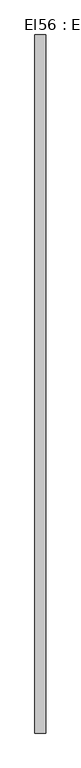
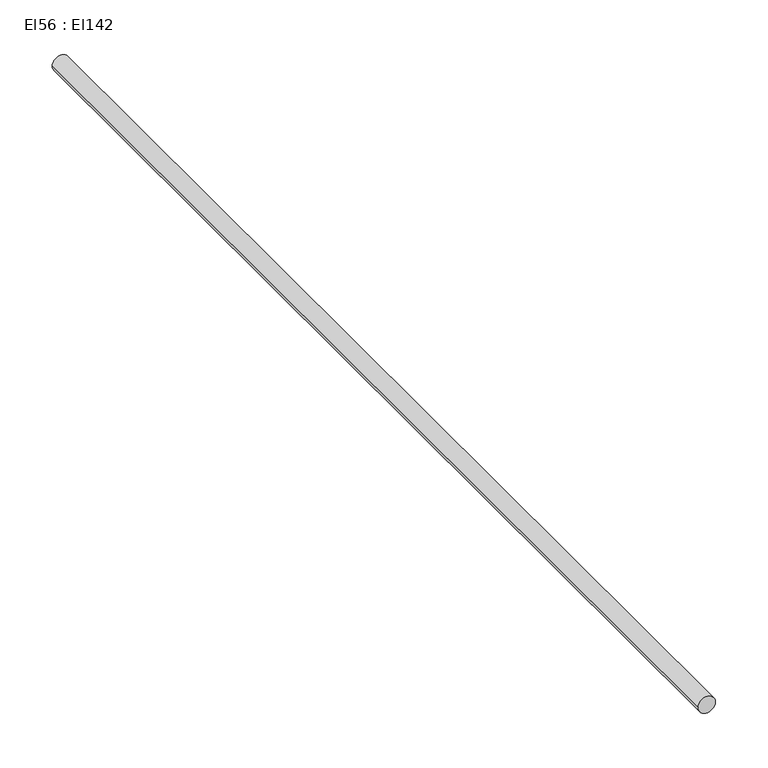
"""IFC4 building model written with IfcOpenShell, lengths in millimetres: cable carrier segment geometry, El56 : El142."""

from ifc_helpers import new_model, si_unit, point, frame, frame_2d, origin, place, context, project, spatial, circle_curve, trimmed, segment, composite_curve, outline, extrude, source, transform, mapped, element, save


def el56_el142_58090826(model_context):
    return source(origin(), model_context, "Body", "SweptSolid", [
        extrude(outline(composite_curve([segment(trimmed(circle_curve(frame_2d((1800.0, 22494.4746511)), 9.5), [point((1800.0, 22484.9746511))], [point((1800.0, 22503.9746511))], False, "CARTESIAN"), True, "CONTINUOUS"), segment(trimmed(circle_curve(frame_2d((1800.0, 22494.4746511)), 9.5), [point((1800.0, 22503.9746511))], [point((1800.0, 22484.9746511))], False, "CARTESIAN"), True, "CONTINUOUS")], self_intersect=False)), frame((0.0, 1973.3231745, 0.0), z_axis=(0.0, 1.0, 0.0), x_axis=(0.0, 0.0, 1.0)), (0.0, 0.0, 1.0), 1234.78),
    ])


if __name__ == "__main__":
    model = new_model("IFC4")
    model_context = context("Model", 3, world=origin())
    ifc_project = project(units=[si_unit("LENGTHUNIT", "METRE", prefix="MILLI")], contexts=[model_context])
    site = spatial("IfcSite", under=ifc_project)
    building = spatial("IfcBuilding", under=site)
    placement = place(None, origin())
    el56_el142_shape = el56_el142_58090826(model_context)
    element("IfcCableCarrierSegment", 1, ObjectType="El56 : El142", at=placement, inside=building, context=model_context, shape_type="MappedRepresentation", body=[
        mapped(el56_el142_shape, transform((0.0, 0.0, 0.0), x_axis=(1.0, 0.0, 0.0), y_axis=(0.0, 1.0, 0.0), z_axis=(0.0, 0.0, 1.0))),
    ])
    save(model, "model.ifc")
